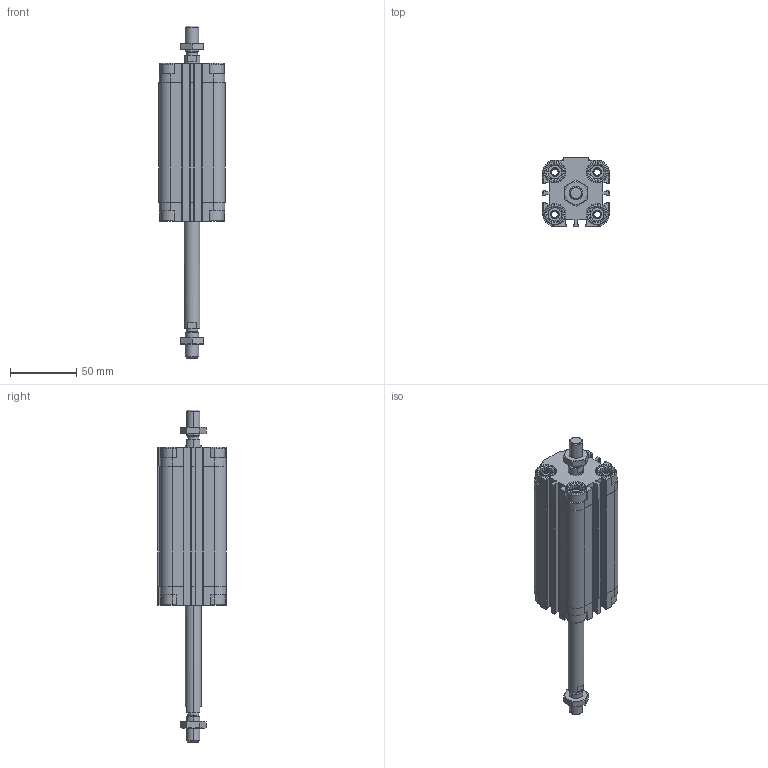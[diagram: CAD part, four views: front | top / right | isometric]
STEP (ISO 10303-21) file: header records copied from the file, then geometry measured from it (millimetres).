
FILE_DESCRIPTION (( 'STEP AP203' ), '1' );
FILE_NAME ('CDVU32-75M-P.STEP', '2020-07-21T15:14:54', ( '' ), ( '' ), 'SwSTEP 2.0', 'SolidWorks 2019', '' );
FILE_SCHEMA (( 'CONFIG_CONTROL_DESIGN' ));
Length unit declared in the file: millimetre
Products named in the file (1): CDVU32-75M-P
Bounding box: 50 x 52 x 250.5 mm (x, y, z)
Volume: 207643.4 mm3; surface area: 74694.7 mm2
Topology: 4 solids, 4 shells, 758 faces, 2004 edges, 1290 vertices
Faces by surface type: plane 438, cylinder 240, cone 80
Entity records: 24115 total; most frequent: CARTESIAN_POINT 5193, ORIENTED_EDGE 4000, DIRECTION 3862, EDGE_CURVE 2000, AXIS2_PLACEMENT_3D 1319, VERTEX_POINT 1290, VECTOR 1224, LINE 1224
